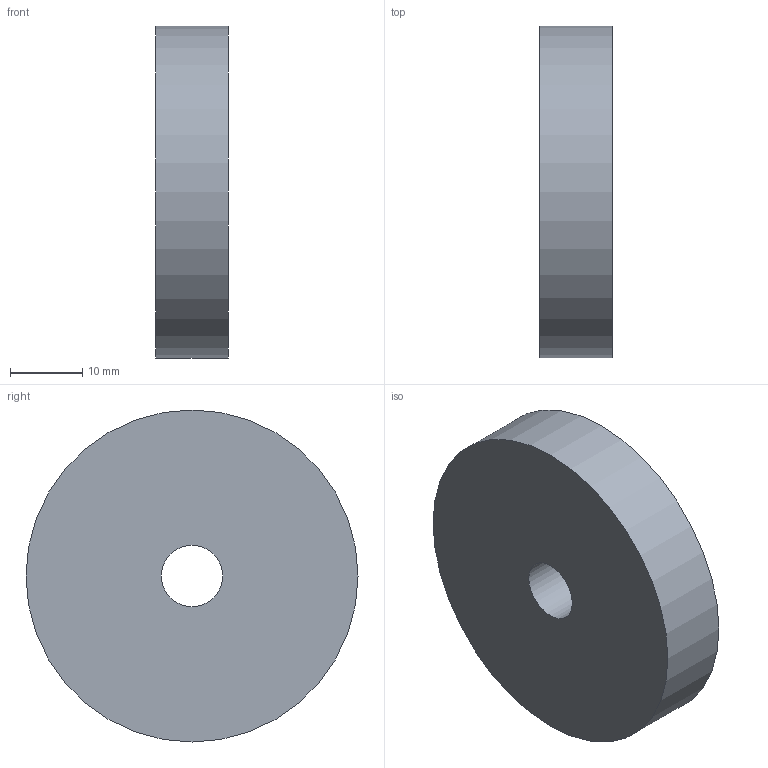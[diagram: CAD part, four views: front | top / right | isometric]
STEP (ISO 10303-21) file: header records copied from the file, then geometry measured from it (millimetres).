
FILE_DESCRIPTION(('Open CASCADE Model'),'2;1');
FILE_NAME('Open CASCADE Shape Model','2026-09-19T23:46:40',('Author'),( 'Open CASCADE'),'Open CASCADE STEP processor 7.9','Open CASCADE 7.9' ,'Unknown');
FILE_SCHEMA(('AUTOMOTIVE_DESIGN { 1 0 10303 214 1 1 1 1 }'));
Length unit declared in the file: millimetre
Products named in the file (1): Open CASCADE STEP translator 7.9 69
Bounding box: 10 x 46 x 46 mm (x, y, z)
Volume: 16051.6 mm3; surface area: 4922.5 mm2
Topology: 1 solids, 1 shells, 4 faces, 6 edges, 4 vertices
Faces by surface type: cylinder 2, plane 2
Full cylindrical faces by diameter (mm): 8.5 x1, 46 x1
Entity records: 186 total; most frequent: DIRECTION 32, CARTESIAN_POINT 27, ORIENTED_EDGE 12, PCURVE 12, DEFINITIONAL_REPRESENTATION 12, LINE 10, VECTOR 10, AXIS2_PLACEMENT_3D 9
